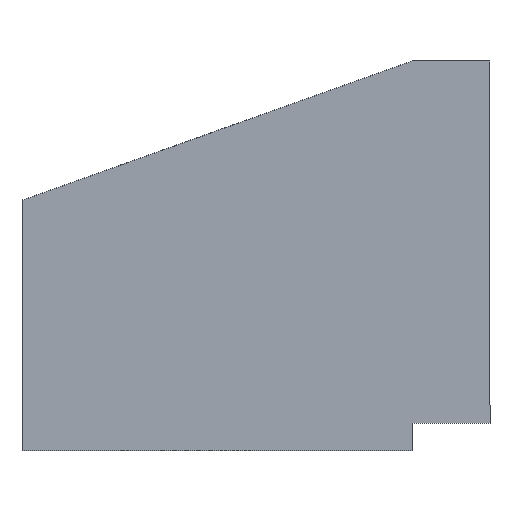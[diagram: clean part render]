
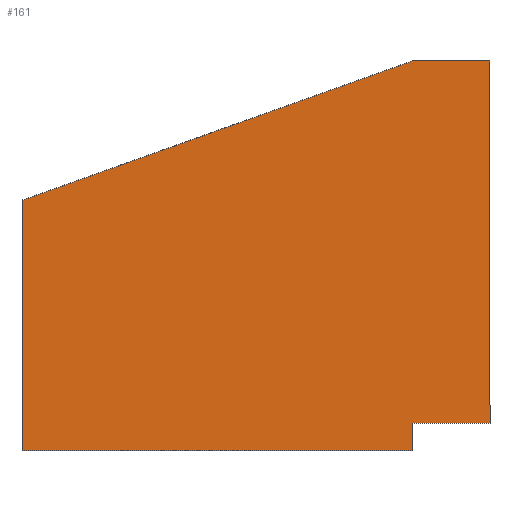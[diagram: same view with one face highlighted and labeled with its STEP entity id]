
A CAD part, front view. The second image highlights one B-rep face of the part: STEP entity #161.
In plain terms, the highlighted planar face has unit normal (0, -1, 0).
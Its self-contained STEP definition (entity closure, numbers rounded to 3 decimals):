
#15=FACE_OUTER_BOUND('',#24,.T.);
#24=EDGE_LOOP('',(#110,#111,#112,#113,#114,#115,#116));
#33=LINE('',#247,#54);
#34=LINE('',#249,#55);
#35=LINE('',#251,#56);
#36=LINE('',#253,#57);
#37=LINE('',#255,#58);
#38=LINE('',#257,#59);
#39=LINE('',#258,#60);
#54=VECTOR('',#206,10.);
#55=VECTOR('',#207,10.);
#56=VECTOR('',#208,10.);
#57=VECTOR('',#209,10.);
#58=VECTOR('',#210,10.);
#59=VECTOR('',#211,10.);
#60=VECTOR('',#212,10.);
#75=VERTEX_POINT('',#245);
#76=VERTEX_POINT('',#246);
#77=VERTEX_POINT('',#248);
#78=VERTEX_POINT('',#250);
#79=VERTEX_POINT('',#252);
#80=VERTEX_POINT('',#254);
#81=VERTEX_POINT('',#256);
#89=EDGE_CURVE('',#75,#76,#33,.T.);
#90=EDGE_CURVE('',#76,#77,#34,.T.);
#91=EDGE_CURVE('',#77,#78,#35,.T.);
#92=EDGE_CURVE('',#78,#79,#36,.T.);
#93=EDGE_CURVE('',#79,#80,#37,.T.);
#94=EDGE_CURVE('',#80,#81,#38,.T.);
#95=EDGE_CURVE('',#81,#75,#39,.T.);
#110=ORIENTED_EDGE('',*,*,#89,.T.);
#111=ORIENTED_EDGE('',*,*,#90,.T.);
#112=ORIENTED_EDGE('',*,*,#91,.T.);
#113=ORIENTED_EDGE('',*,*,#92,.T.);
#114=ORIENTED_EDGE('',*,*,#93,.T.);
#115=ORIENTED_EDGE('',*,*,#94,.T.);
#116=ORIENTED_EDGE('',*,*,#95,.T.);
#152=PLANE('',#193);
#161=ADVANCED_FACE('',(#15),#152,.T.);
#193=AXIS2_PLACEMENT_3D('',#244,#204,#205);
#204=DIRECTION('center_axis',(0.,-1.,0.));
#205=DIRECTION('ref_axis',(0.,0.,-1.));
#206=DIRECTION('',(-1.,0.,0.));
#207=DIRECTION('',(-0.942,0.,-0.336));
#208=DIRECTION('',(0.,0.,-1.));
#209=DIRECTION('',(1.,0.,0.));
#210=DIRECTION('',(0.,0.,1.));
#211=DIRECTION('',(1.,0.,0.));
#212=DIRECTION('',(0.,0.,1.));
#244=CARTESIAN_POINT('Origin',(-58.75,-0.75,35.));
#245=CARTESIAN_POINT('',(-16.75,-0.75,70.));
#246=CARTESIAN_POINT('',(-30.75,-0.75,70.));
#247=CARTESIAN_POINT('',(-30.75,-0.75,70.));
#248=CARTESIAN_POINT('',(-100.75,-0.75,45.));
#249=CARTESIAN_POINT('',(-100.75,-0.75,45.));
#250=CARTESIAN_POINT('',(-100.75,-0.75,0.));
#251=CARTESIAN_POINT('',(-100.75,-0.75,0.));
#252=CARTESIAN_POINT('',(-30.75,-0.75,0.));
#253=CARTESIAN_POINT('',(-30.75,-0.75,0.));
#254=CARTESIAN_POINT('',(-30.75,-0.75,5.));
#255=CARTESIAN_POINT('',(-30.75,-0.75,5.));
#256=CARTESIAN_POINT('',(-16.75,-0.75,5.));
#257=CARTESIAN_POINT('',(-15.55,-0.75,5.));
#258=CARTESIAN_POINT('',(-16.75,-0.75,70.));
